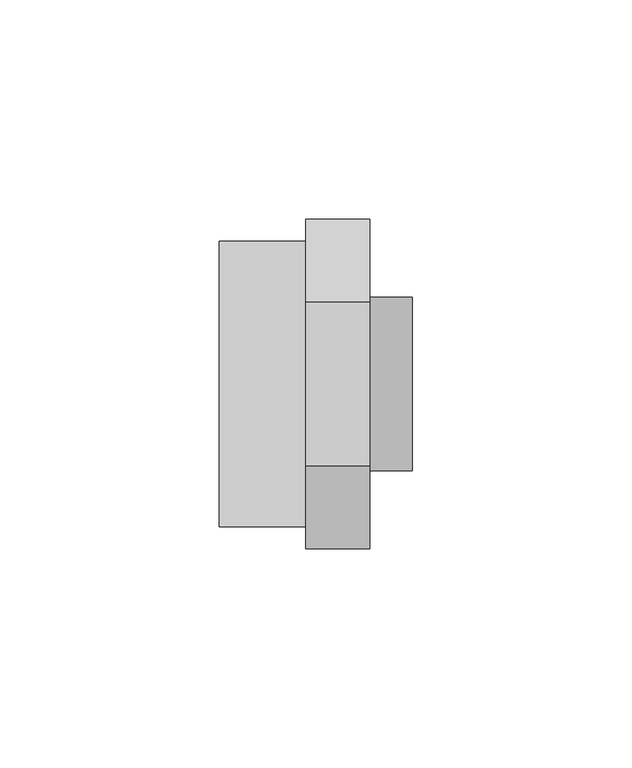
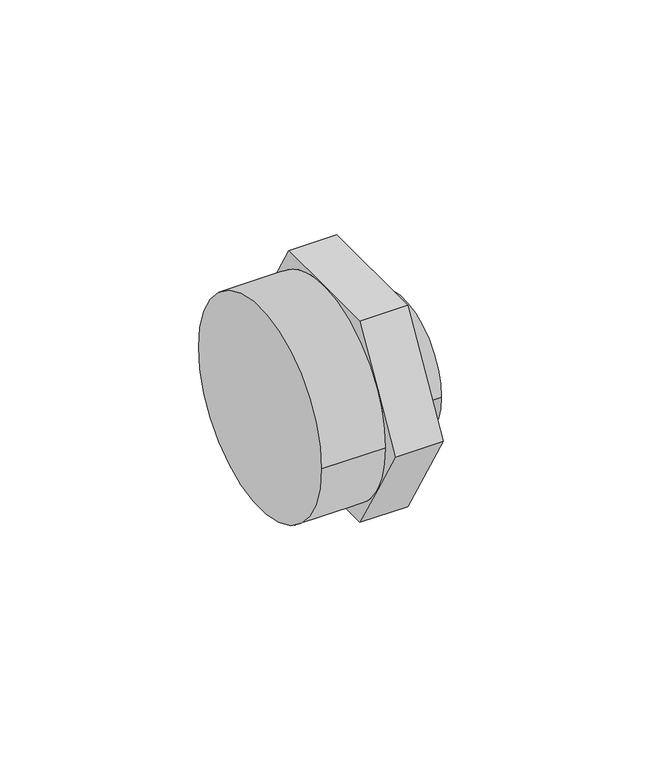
"""IFC4 building model written with IfcOpenShell, lengths in millimetres: pipe fitting geometry, 01021007 : Uniao de redução F/F c/ anilhas de reforço."""

from ifc_helpers import new_model, si_unit, frame, origin, place, context, project, spatial, circle_curve, source, transform, mapped, element, save
from ifc_brep_helpers import plane_surface, cylinder_surface, advanced_brep


def pipe_fitting_c7f7e48e(model_context):
    return source(origin(), model_context, "Body", "AdvancedBrep", [
        advanced_brep(
        [(34.3333333, -18.7638837, 32.5), (34.3333333, -37.5277675, 0.0), (34.3333333, -18.7638837, -32.5), (34.3333333, 18.7638837, -32.5), (34.3333333, 37.5277675, 0.0), (34.3333333, 18.7638837, 32.5), (34.3333333, -19.8, 0.0), (34.3333333, 19.8, 0.0), (19.6666667, -18.7638837, 32.5), (19.6666667, 0.0, 32.5), (19.6666667, -28.1458256, 16.25), (19.6666667, 18.7638837, 32.5), (19.6666667, 28.1458256, 16.25), (19.6666667, 37.5277675, 0.0), (19.6666667, 28.1458256, -16.25), (19.6666667, 32.5, 0.0), (19.6666667, 18.7638837, -32.5), (19.6666667, 0.0, -32.5), (19.6666667, -18.7638837, -32.5), (19.6666667, -28.1458256, -16.25), (19.6666667, -37.5277675, 0.0), (19.6666667, -32.5, 0.0), (44.0, -19.8, 0.0), (44.0, 19.8, 0.0), (0.0, 32.5, 0.0), (0.0, -32.5, 0.0)],
        [
            (0, 1),
            (1, 2),
            (2, 3),
            (3, 4),
            (4, 5),
            (5, 0),
            (6, 7, circle_curve(frame((34.3333333, 0.0, 0.0), z_axis=(-1.0, 0.0, 0.0), x_axis=(0.0, 1.0, 0.0)), 19.8)),
            (7, 6, circle_curve(frame((34.3333333, 0.0, 0.0), z_axis=(-1.0, 0.0, 0.0), x_axis=(0.0, 1.0, 0.0)), 19.8)),
            (8, 9),
            (9, 10, circle_curve(frame((19.6666667, 0.0, 0.0), z_axis=(1.0, 0.0, 0.0), x_axis=(0.0, -1.0, 0.0)), 32.5)),
            (10, 8),
            (9, 11),
            (11, 12),
            (12, 9, circle_curve(frame((19.6666667, 0.0, 0.0), z_axis=(1.0, 0.0, 0.0), x_axis=(0.0, -1.0, 0.0)), 32.5)),
            (12, 13),
            (13, 14),
            (14, 15, circle_curve(frame((19.6666667, 0.0, 0.0), z_axis=(1.0, 0.0, 0.0), x_axis=(0.0, -1.0, 0.0)), 32.5)),
            (15, 12, circle_curve(frame((19.6666667, 0.0, 0.0), z_axis=(1.0, 0.0, 0.0), x_axis=(0.0, -1.0, 0.0)), 32.5)),
            (14, 16),
            (16, 17),
            (17, 14, circle_curve(frame((19.6666667, 0.0, 0.0), z_axis=(1.0, 0.0, 0.0), x_axis=(0.0, -1.0, 0.0)), 32.5)),
            (17, 18),
            (18, 19),
            (19, 17, circle_curve(frame((19.6666667, 0.0, 0.0), z_axis=(1.0, 0.0, 0.0), x_axis=(0.0, -1.0, 0.0)), 32.5)),
            (19, 20),
            (20, 10),
            (10, 21, circle_curve(frame((19.6666667, 0.0, 0.0), z_axis=(1.0, 0.0, 0.0), x_axis=(0.0, -1.0, 0.0)), 32.5)),
            (21, 19, circle_curve(frame((19.6666667, 0.0, 0.0), z_axis=(1.0, 0.0, 0.0), x_axis=(0.0, -1.0, 0.0)), 32.5)),
            (0, 8),
            (20, 1),
            (18, 2),
            (16, 3),
            (13, 4),
            (11, 5),
            (22, 23, circle_curve(frame((44.0, 0.0, 0.0), z_axis=(1.0, 0.0, 0.0), x_axis=(0.0, 1.0, 0.0)), 19.8)),
            (23, 22, circle_curve(frame((44.0, 0.0, 0.0), z_axis=(1.0, 0.0, 0.0), x_axis=(0.0, 1.0, 0.0)), 19.8)),
            (23, 7),
            (6, 22),
            (24, 25, circle_curve(frame((0.0, 0.0, 0.0), z_axis=(-1.0, 0.0, 0.0), x_axis=(0.0, -1.0, 0.0)), 32.5)),
            (25, 24, circle_curve(frame((0.0, 0.0, 0.0), z_axis=(-1.0, 0.0, 0.0), x_axis=(0.0, -1.0, 0.0)), 32.5)),
            (25, 21),
            (15, 24),
        ],
        [
            plane_surface(frame((34.3333333, -18.7638837, 32.5), z_axis=(1.0, 0.0, 0.0), x_axis=(0.0, -0.5000000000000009, -0.8660254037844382))),
            plane_surface(frame((19.6666667, -18.7638837, 32.5), z_axis=(-1.0, 0.0, 0.0), x_axis=(0.0, 0.5000000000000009, 0.8660254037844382))),
            plane_surface(frame((34.3333333, -18.7638837, 32.5), z_axis=(0.0, -0.8660254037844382, 0.5000000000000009), x_axis=(-1.0, 0.0, 0.0))),
            plane_surface(frame((34.3333333, -37.5277675, 0.0), z_axis=(0.0, -0.8660254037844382, -0.500000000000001), x_axis=(-1.0, 0.0, 0.0))),
            plane_surface(frame((34.3333333, -18.7638837, -32.5), z_axis=(0.0, 0.0, -1.0), x_axis=(-1.0, 0.0, 0.0))),
            plane_surface(frame((34.3333333, 18.7638837, -32.5), z_axis=(0.0, 0.8660254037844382, -0.500000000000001), x_axis=(-1.0, 0.0, 0.0))),
            plane_surface(frame((34.3333333, 37.5277675, 0.0), z_axis=(0.0, 0.866025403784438, 0.5000000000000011), x_axis=(-1.0, 0.0, 0.0))),
            plane_surface(frame((34.3333333, 18.7638837, 32.5), z_axis=(0.0, 0.0, 1.0), x_axis=(-1.0, 0.0, 0.0))),
            plane_surface(frame((44.0, 0.0, 0.0), z_axis=(1.0, 0.0, 0.0), x_axis=(0.0, 0.0, 1.0))),
            cylinder_surface(frame((31.0, 0.0, 0.0), z_axis=(-1.0, 0.0, 0.0), x_axis=(0.0, 1.0, 0.0)), 19.8),
            plane_surface(frame((0.0, 0.0, 0.0), z_axis=(-1.0, 0.0, 0.0), x_axis=(0.0, 0.0, 1.0))),
            cylinder_surface(frame((23.0, 0.0, 0.0), z_axis=(1.0, 0.0, 0.0), x_axis=(0.0, -1.0, 0.0)), 32.5),
        ],
        [
            (0, [[1, 2, 3, 4, 5, 6], [7, 8]]),
            (1, [[9, 10, 11]]),
            (1, [[12, 13, 14]]),
            (1, [[15, 16, 17, 18]]),
            (1, [[19, 20, 21]]),
            (1, [[22, 23, 24]]),
            (1, [[25, 26, 27, 28]]),
            (2, [[-1, 29, -11, -26, 30]]),
            (3, [[-2, -30, -25, -23, 31]]),
            (4, [[-3, -31, -22, -20, 32]]),
            (5, [[-4, -32, -19, -16, 33]]),
            (6, [[-5, -33, -15, -13, 34]]),
            (7, [[-6, -34, -12, -9, -29]]),
            (8, [[35, 36]]),
            (9, [[-36, 37, -7, 38]]),
            (9, [[-35, -38, -8, -37]]),
            (10, [[39, 40]]),
            (11, [[-40, 41, -27, -10, -14, -18, 42]]),
            (11, [[-39, -42, -17, -21, -24, -28, -41]]),
        ],
    ),
    ])


if __name__ == "__main__":
    model = new_model("IFC4")
    model_context = context("Model", 3, world=origin())
    ifc_project = project(units=[si_unit("LENGTHUNIT", "METRE", prefix="MILLI")], contexts=[model_context])
    site = spatial("IfcSite", under=ifc_project)
    building = spatial("IfcBuilding", under=site)
    placement = place(None, origin())
    pipe_fitting_shape = pipe_fitting_c7f7e48e(model_context)
    element("IfcPipeFitting", 1, ObjectType="01021007 : Uniao de redução F/F c/ anilhas de reforço", at=placement, inside=building, context=model_context, shape_type="MappedRepresentation", body=[
        mapped(pipe_fitting_shape, transform((0.0, 0.0, 0.0), x_axis=(1.0, 0.0, 0.0), y_axis=(0.0, 1.0, 0.0), z_axis=(0.0, 0.0, 1.0))),
    ])
    save(model, "model.ifc")
